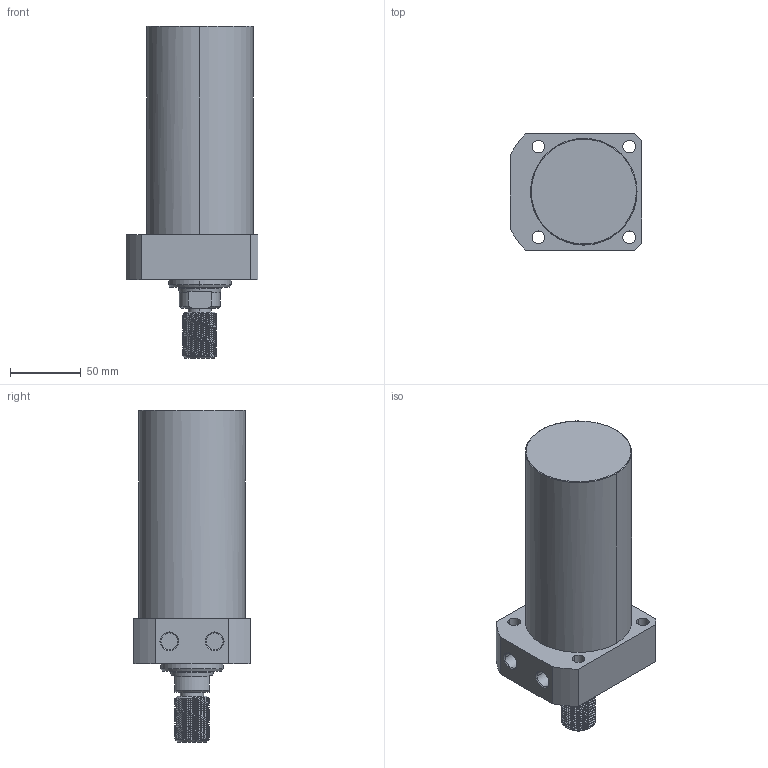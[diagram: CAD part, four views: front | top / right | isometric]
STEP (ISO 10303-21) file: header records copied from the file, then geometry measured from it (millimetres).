
FILE_DESCRIPTION((' '),'2;1');
FILE_NAME( 'TLLR-075CT-110.STEP.stp', '2025-10-24T16:35:12', (' '), ('--- Datakit www.datakit.com---'), ' Datakit CrossCadWare V2024.1 Dec 21 2023', 'Mastercam 2025', ' ');
FILE_SCHEMA(('AUTOMOTIVE_DESIGN { 1 0 10303 214 1 1 1 1 }'));
Length unit declared in the file: millimetre
Products named in the file (1): TLLR-075CT-110
Bounding box: 93 x 82 x 234 mm (x, y, z)
Volume: 906386.7 mm3; surface area: 70785.3 mm2
Topology: 1 solids, 1 shells, 108 faces, 395 edges, 298 vertices
Faces by surface type: cylinder 69, plane 21, cone 14, bspline 2, torus 2
Entity records: 13017 total; most frequent: CARTESIAN_POINT 9666, ORIENTED_EDGE 790, DIRECTION 544, EDGE_CURVE 395, VERTEX_POINT 298, AXIS2_PLACEMENT_3D 220, B_SPLINE_CURVE_WITH_KNOTS 178, EDGE_LOOP 125
